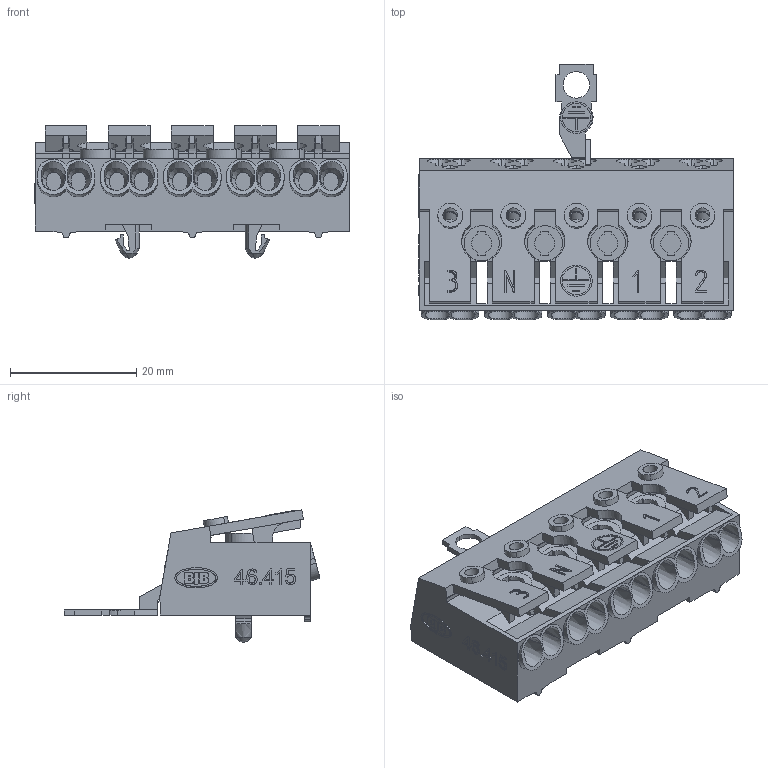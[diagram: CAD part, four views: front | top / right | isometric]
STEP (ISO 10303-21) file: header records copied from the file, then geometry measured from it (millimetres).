
FILE_DESCRIPTION((' '),'1');
FILE_NAME('006YK0CY03.stp','2011-06-16 T10:53:31',(''),(''),'STEP Interface v1.0 by CT CoreTechnologie','3D_Evolution v1.0 by CT CoreTechnologie','');
FILE_SCHEMA(('CONFIG_CONTROL_DESIGN'));
Length unit declared in the file: millimetre
Products named in the file (3): Assem1; 002-R0D-05; 006-K0G-03
Assembly tree (2 placements, depth 2):
  Assem1
    002-R0D-05
    006-K0G-03
Bounding box: 49.9 x 40.57 x 20.98 mm (x, y, z)
Volume: 11383.5 mm3; surface area: 9480.5 mm2
Topology: 2 solids, 2 shells, 777 faces, 2156 edges, 1425 vertices
Faces by surface type: plane 512, cylinder 203, bspline 62
Entity records: 36872 total; most frequent: CARTESIAN_POINT 10167, ORIENTED_EDGE 4224, DIRECTION 3818, EDGE_CURVE 2112, VECTOR 1530, LINE 1530, VERTEX_POINT 1407, AXIS2_PLACEMENT_3D 1144
